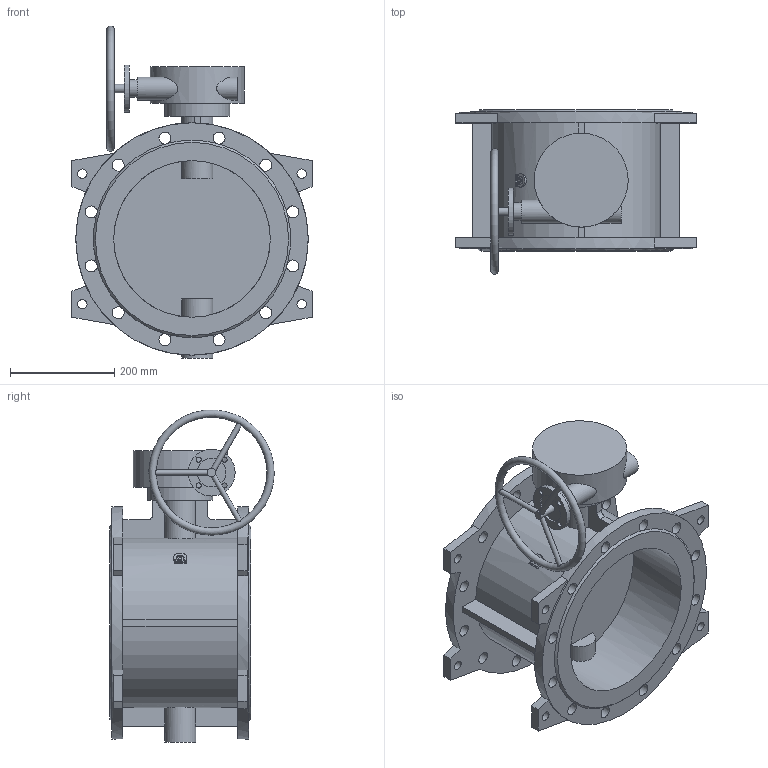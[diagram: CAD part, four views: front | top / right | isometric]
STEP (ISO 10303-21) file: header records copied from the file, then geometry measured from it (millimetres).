
FILE_DESCRIPTION(('STEP AP203'), '1');
FILE_NAME('Çàòâîð 023F.Z DN300 PN10_ìàõ', '', ('UNSPECIFIED'), ('UNSPECIFIED'), 'ASCON STEP Converter 1.6', 'ASCON Math Kernel', '');
FILE_SCHEMA(('CONFIG_CONTROL_DESIGN'));
Length unit declared in the file: millimetre
Bounding box: 460 x 314.94 x 635.84 mm (x, y, z)
Volume: 12314149.3 mm3; surface area: 1288819.8 mm2
Topology: 1 solids, 1 shells, 170 faces, 503 edges, 335 vertices
Faces by surface type: plane 90, cylinder 77, cone 2, torus 1
Full cylindrical faces by diameter (mm): 8.3 x4, 10 x7, 12 x4, 16 x1, 18 x8, 23 x24, 34 x1, 44 x1, 55 x1, 60 x1, 90 x1, 125 x1, 180 x1, 300 x2, 445 x2
Entity records: 10422 total; most frequent: CARTESIAN_POINT 4478, DIRECTION 939, ORIENTED_EDGE 878, EDGE_CURVE 439, AXIS2_PLACEMENT_3D 379, VERTEX_POINT 334, EDGE_LOOP 309, FACE_BOUND 218
